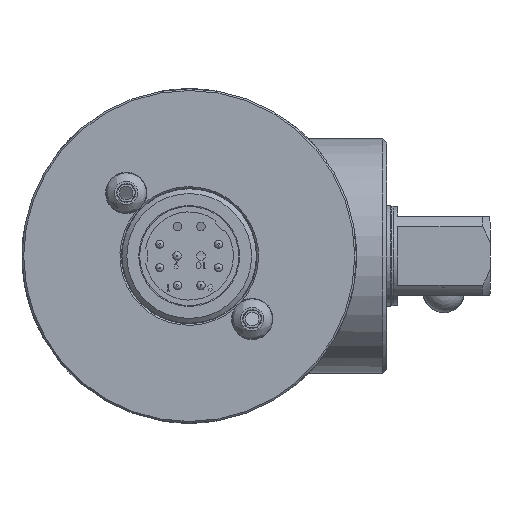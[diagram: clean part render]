
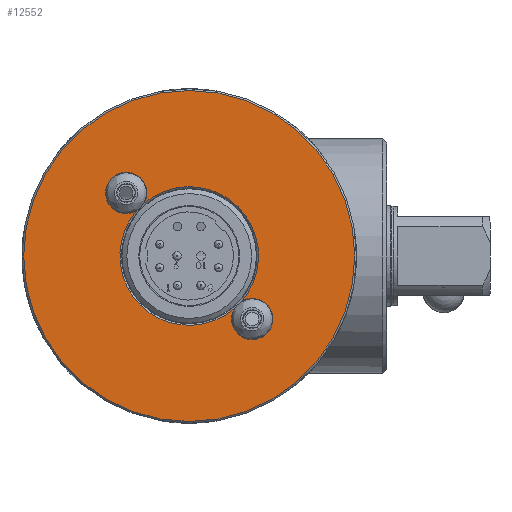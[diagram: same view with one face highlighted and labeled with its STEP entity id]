
A CAD part, front view. The second image highlights one B-rep face of the part: STEP entity #12552.
In plain terms, the highlighted planar face has unit normal (0, -1, 0).
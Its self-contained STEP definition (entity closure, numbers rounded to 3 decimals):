
#359 = VERTEX_POINT ( 'NONE', #2594 ) ;
#465 = AXIS2_PLACEMENT_3D ( 'NONE', #9424, #1406, #6076 ) ;
#693 = CARTESIAN_POINT ( 'NONE',  ( -6.236, -177.813, 5.401 ) ) ;
#710 = ORIENTED_EDGE ( 'NONE', *, *, #11831, .T. ) ;
#1119 = ORIENTED_EDGE ( 'NONE', *, *, #9249, .F. ) ;
#1151 = DIRECTION ( 'NONE',  ( 0., 1., 0. ) ) ;
#1349 = CIRCLE ( 'NONE', #9665, 8.25 ) ;
#1406 = DIRECTION ( 'NONE',  ( 0., 1., 0. ) ) ;
#1801 = CIRCLE ( 'NONE', #14281, 2.45 ) ;
#1966 = ORIENTED_EDGE ( 'NONE', *, *, #9643, .T. ) ;
#2248 = CARTESIAN_POINT ( 'NONE',  ( 7.5, -177.813, -7.5 ) ) ;
#2594 = CARTESIAN_POINT ( 'NONE',  ( 6.236, -177.813, -5.401 ) ) ;
#2716 = CARTESIAN_POINT ( 'NONE',  ( 0., -177.813, 0. ) ) ;
#3044 = DIRECTION ( 'NONE',  ( 0., -1., 0. ) ) ;
#3348 = CARTESIAN_POINT ( 'NONE',  ( -7.5, -177.813, 7.5 ) ) ;
#3909 = VERTEX_POINT ( 'NONE', #693 ) ;
#4256 = EDGE_CURVE ( 'NONE', #10475, #3909, #7931, .T. ) ;
#4656 = DIRECTION ( 'NONE',  ( 0., 0., 1. ) ) ;
#4681 = CIRCLE ( 'NONE', #4921, 8.25 ) ;
#4921 = AXIS2_PLACEMENT_3D ( 'NONE', #6117, #1151, #4656 ) ;
#5507 = AXIS2_PLACEMENT_3D ( 'NONE', #3348, #11339, #10260 ) ;
#5745 = CIRCLE ( 'NONE', #7429, 19.7 ) ;
#5851 = FACE_BOUND ( 'NONE', #7717, .T. ) ;
#6076 = DIRECTION ( 'NONE',  ( 0., 0., 1. ) ) ;
#6117 = CARTESIAN_POINT ( 'NONE',  ( 0., -177.813, 0. ) ) ;
#6134 = VERTEX_POINT ( 'NONE', #6368 ) ;
#6368 = CARTESIAN_POINT ( 'NONE',  ( 0., -177.813, 19.7 ) ) ;
#6818 = DIRECTION ( 'NONE',  ( 0., 0., 1. ) ) ;
#6896 = DIRECTION ( 'NONE',  ( 0., 0., -1. ) ) ;
#7247 = EDGE_CURVE ( 'NONE', #6134, #6134, #5745, .T. ) ;
#7429 = AXIS2_PLACEMENT_3D ( 'NONE', #2716, #9735, #7572 ) ;
#7572 = DIRECTION ( 'NONE',  ( 0., 0., 1. ) ) ;
#7717 = EDGE_LOOP ( 'NONE', ( #1119, #1966, #9041, #710 ) ) ;
#7931 = CIRCLE ( 'NONE', #5507, 2.45 ) ;
#7946 = DIRECTION ( 'NONE',  ( 0., 1., 0. ) ) ;
#9041 = ORIENTED_EDGE ( 'NONE', *, *, #4256, .F. ) ;
#9249 = EDGE_CURVE ( 'NONE', #13437, #359, #1801, .T. ) ;
#9424 = CARTESIAN_POINT ( 'NONE',  ( 8.05, -177.813, 0. ) ) ;
#9467 = EDGE_LOOP ( 'NONE', ( #10441 ) ) ;
#9643 = EDGE_CURVE ( 'NONE', #13437, #3909, #4681, .T. ) ;
#9665 = AXIS2_PLACEMENT_3D ( 'NONE', #14878, #7946, #6818 ) ;
#9735 = DIRECTION ( 'NONE',  ( 0., -1., 0. ) ) ;
#9764 = CARTESIAN_POINT ( 'NONE',  ( 5.401, -177.813, -6.236 ) ) ;
#10076 = CARTESIAN_POINT ( 'NONE',  ( -5.401, -177.813, 6.236 ) ) ;
#10260 = DIRECTION ( 'NONE',  ( 0., 0., -1. ) ) ;
#10441 = ORIENTED_EDGE ( 'NONE', *, *, #7247, .T. ) ;
#10475 = VERTEX_POINT ( 'NONE', #10076 ) ;
#11339 = DIRECTION ( 'NONE',  ( 0., -1., 0. ) ) ;
#11420 = PLANE ( 'NONE',  #465 ) ;
#11831 = EDGE_CURVE ( 'NONE', #10475, #359, #1349, .T. ) ;
#12552 = ADVANCED_FACE ( 'NONE', ( #12808, #5851 ), #11420, .F. ) ;
#12808 = FACE_OUTER_BOUND ( 'NONE', #9467, .T. ) ;
#13437 = VERTEX_POINT ( 'NONE', #9764 ) ;
#14281 = AXIS2_PLACEMENT_3D ( 'NONE', #2248, #3044, #6896 ) ;
#14878 = CARTESIAN_POINT ( 'NONE',  ( 0., -177.813, 0. ) ) ;
